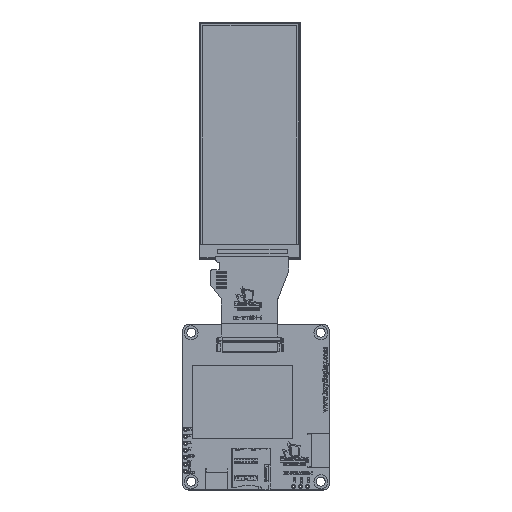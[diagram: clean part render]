
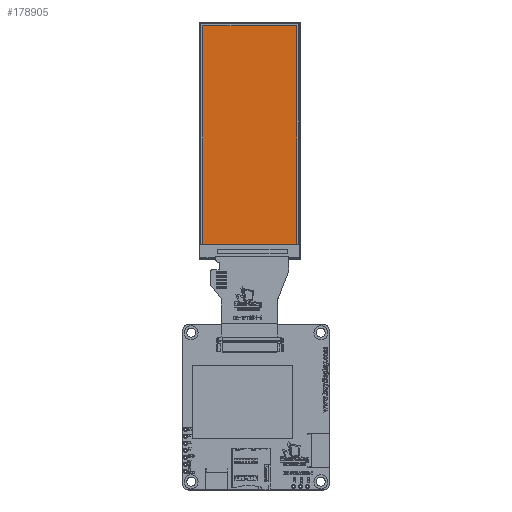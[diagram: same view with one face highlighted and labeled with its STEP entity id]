
A CAD part, top view. The second image highlights one B-rep face of the part: STEP entity #178905.
In plain terms, the highlighted planar face has unit normal (0, 0, 1).
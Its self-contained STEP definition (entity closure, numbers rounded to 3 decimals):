
#1040 = CARTESIAN_POINT ( 'NONE',  ( 16.99, 0., 2. ) ) ;
#14765 = VECTOR ( 'NONE', #150987, 1000. ) ;
#22862 = DIRECTION ( 'NONE',  ( 1., 0., 0. ) ) ;
#34508 = CARTESIAN_POINT ( 'NONE',  ( 0., 41.64, 2. ) ) ;
#51019 = VERTEX_POINT ( 'NONE', #152805 ) ;
#51914 = ORIENTED_EDGE ( 'NONE', *, *, #211733, .F. ) ;
#78221 = CARTESIAN_POINT ( 'NONE',  ( -17., -37.56, 2. ) ) ;
#87161 = EDGE_CURVE ( 'NONE', #191050, #210522, #238079, .T. ) ;
#95493 = CARTESIAN_POINT ( 'NONE',  ( -17., 41.64, 2. ) ) ;
#96518 = DIRECTION ( 'NONE',  ( 1., 0., 0. ) ) ;
#101908 = VECTOR ( 'NONE', #160229, 1000. ) ;
#113424 = CARTESIAN_POINT ( 'NONE',  ( 0., -37.56, 2. ) ) ;
#113714 = EDGE_CURVE ( 'NONE', #51019, #194984, #236886, .T. ) ;
#120021 = FACE_OUTER_BOUND ( 'NONE', #187834, .T. ) ;
#134511 = DIRECTION ( 'NONE',  ( 0., -1., 0. ) ) ;
#148428 = LINE ( 'NONE', #113424, #14765 ) ;
#149362 = VECTOR ( 'NONE', #96518, 1000. ) ;
#150987 = DIRECTION ( 'NONE',  ( -1., 0., 0. ) ) ;
#152805 = CARTESIAN_POINT ( 'NONE',  ( 16.99, 41.64, 2. ) ) ;
#153573 = EDGE_CURVE ( 'NONE', #194984, #191050, #148428, .T. ) ;
#157691 = CARTESIAN_POINT ( 'NONE',  ( -17., 0., 2. ) ) ;
#160229 = DIRECTION ( 'NONE',  ( 0., 1., 0. ) ) ;
#175740 = VECTOR ( 'NONE', #134511, 1000. ) ;
#178905 = ADVANCED_FACE ( 'NONE', ( #120021 ), #199107, .T. ) ;
#187834 = EDGE_LOOP ( 'NONE', ( #231467, #236753, #225320, #51914 ) ) ;
#191050 = VERTEX_POINT ( 'NONE', #78221 ) ;
#194984 = VERTEX_POINT ( 'NONE', #235094 ) ;
#197786 = DIRECTION ( 'NONE',  ( 0., 0., 1. ) ) ;
#199107 = PLANE ( 'NONE',  #219493 ) ;
#210522 = VERTEX_POINT ( 'NONE', #95493 ) ;
#211733 = EDGE_CURVE ( 'NONE', #210522, #51019, #213351, .T. ) ;
#213351 = LINE ( 'NONE', #34508, #149362 ) ;
#219493 = AXIS2_PLACEMENT_3D ( 'NONE', #243065, #197786, #22862 ) ;
#225320 = ORIENTED_EDGE ( 'NONE', *, *, #113714, .F. ) ;
#231467 = ORIENTED_EDGE ( 'NONE', *, *, #87161, .F. ) ;
#235094 = CARTESIAN_POINT ( 'NONE',  ( 16.99, -37.56, 2. ) ) ;
#236753 = ORIENTED_EDGE ( 'NONE', *, *, #153573, .F. ) ;
#236886 = LINE ( 'NONE', #1040, #175740 ) ;
#238079 = LINE ( 'NONE', #157691, #101908 ) ;
#243065 = CARTESIAN_POINT ( 'NONE',  ( 0., 0., 2. ) ) ;
